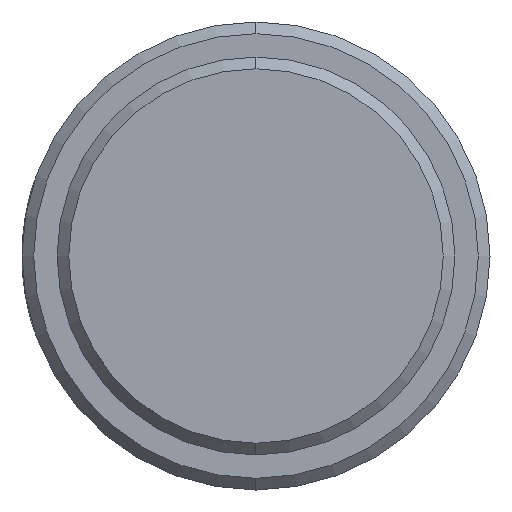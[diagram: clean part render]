
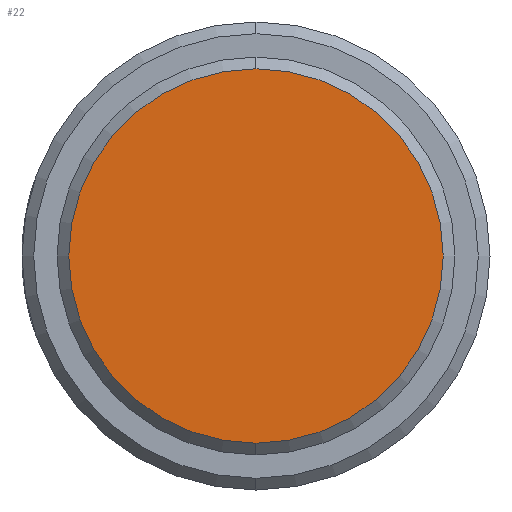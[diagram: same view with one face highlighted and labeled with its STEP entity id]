
A CAD part, left-side view. The second image highlights one B-rep face of the part: STEP entity #22.
In plain terms, the highlighted planar face has unit normal (-1, 0, 0).
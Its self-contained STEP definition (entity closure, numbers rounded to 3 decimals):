
#6 = DIRECTION ( 'NONE',  ( 0., 0., 1. ) ) ;
#22 = ADVANCED_FACE ( 'NONE', ( #651 ), #550, .T. ) ;
#25 = AXIS2_PLACEMENT_3D ( 'NONE', #130, #457, #68 ) ;
#28 = EDGE_CURVE ( 'NONE', #568, #79, #396, .T. ) ;
#37 = CARTESIAN_POINT ( 'NONE',  ( 0., 0., -8. ) ) ;
#68 = DIRECTION ( 'NONE',  ( 0., 0., 1. ) ) ;
#73 = CARTESIAN_POINT ( 'NONE',  ( 0., 0., 8. ) ) ;
#79 = VERTEX_POINT ( 'NONE', #73 ) ;
#123 = CARTESIAN_POINT ( 'NONE',  ( 0., 0., 0. ) ) ;
#130 = CARTESIAN_POINT ( 'NONE',  ( 0., 0., 0. ) ) ;
#167 = DIRECTION ( 'NONE',  ( -1., 0., 0. ) ) ;
#247 = CIRCLE ( 'NONE', #437, 8. ) ;
#250 = EDGE_CURVE ( 'NONE', #79, #568, #247, .T. ) ;
#261 = ORIENTED_EDGE ( 'NONE', *, *, #250, .T. ) ;
#273 = CARTESIAN_POINT ( 'NONE',  ( 0., 0., 0. ) ) ;
#297 = AXIS2_PLACEMENT_3D ( 'NONE', #123, #596, #450 ) ;
#329 = EDGE_LOOP ( 'NONE', ( #620, #261 ) ) ;
#396 = CIRCLE ( 'NONE', #25, 8. ) ;
#437 = AXIS2_PLACEMENT_3D ( 'NONE', #273, #167, #6 ) ;
#450 = DIRECTION ( 'NONE',  ( 0., 0., 1. ) ) ;
#457 = DIRECTION ( 'NONE',  ( -1., 0., 0. ) ) ;
#550 = PLANE ( 'NONE',  #297 ) ;
#568 = VERTEX_POINT ( 'NONE', #37 ) ;
#596 = DIRECTION ( 'NONE',  ( -1., 0., 0. ) ) ;
#620 = ORIENTED_EDGE ( 'NONE', *, *, #28, .T. ) ;
#651 = FACE_OUTER_BOUND ( 'NONE', #329, .T. ) ;
